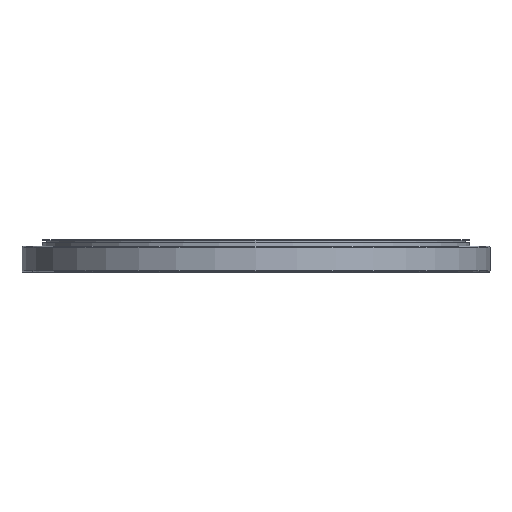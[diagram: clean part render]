
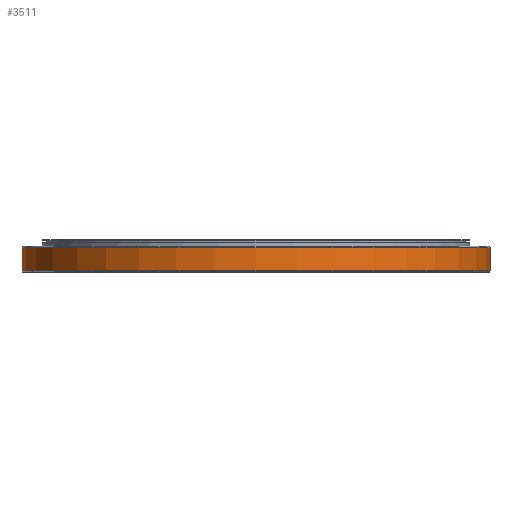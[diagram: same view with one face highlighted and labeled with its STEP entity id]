
A CAD part, top view. The second image highlights one B-rep face of the part: STEP entity #3511.
In plain terms, the highlighted cylindrical face has radius 407 mm (diameter 814 mm), a partial arc.
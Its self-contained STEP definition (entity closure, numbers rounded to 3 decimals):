
#1305=CARTESIAN_POINT('',(0.,42.5,0.));
#1306=DIRECTION('',(0.,-1.,0.));
#1307=DIRECTION('',(1.,0.,0.));
#1308=AXIS2_PLACEMENT_3D('',#1305,#1306,#1307);
#1310=CARTESIAN_POINT('',(0.,2.,0.));
#1311=DIRECTION('',(0.,-1.,0.));
#1312=DIRECTION('',(1.,0.,0.));
#1313=AXIS2_PLACEMENT_3D('',#1310,#1311,#1312);
#1330=DIRECTION('',(0.,-1.,0.));
#1331=VECTOR('',#1330,40.5);
#1332=CARTESIAN_POINT('',(-407.,42.5,0.));
#1333=LINE('',#1332,#1331);
#1339=DIRECTION('',(0.,-1.,0.));
#1340=VECTOR('',#1339,40.5);
#1341=CARTESIAN_POINT('',(407.,42.5,0.));
#1342=LINE('',#1341,#1340);
#1571=CARTESIAN_POINT('',(-407.,42.5,0.));
#1572=CARTESIAN_POINT('',(407.,42.5,0.));
#1573=VERTEX_POINT('',#1571);
#1574=VERTEX_POINT('',#1572);
#1583=CARTESIAN_POINT('',(-407.,2.,0.));
#1584=CARTESIAN_POINT('',(407.,2.,0.));
#1585=VERTEX_POINT('',#1583);
#1586=VERTEX_POINT('',#1584);
#3497=CARTESIAN_POINT('',(0.,0.,0.));
#3498=DIRECTION('',(0.,1.,0.));
#3499=DIRECTION('',(1.,0.,0.));
#3500=AXIS2_PLACEMENT_3D('',#3497,#3498,#3499);
#3501=CYLINDRICAL_SURFACE('',#3500,407.);
#3503=ORIENTED_EDGE('',*,*,#3502,.F.);
#3505=ORIENTED_EDGE('',*,*,#3504,.T.);
#3506=ORIENTED_EDGE('',*,*,#3491,.T.);
#3508=ORIENTED_EDGE('',*,*,#3507,.F.);
#3509=EDGE_LOOP('',(#3503,#3505,#3506,#3508));
#3510=FACE_OUTER_BOUND('',#3509,.F.);
#1309=CIRCLE('',#1308,407.);
#1314=CIRCLE('',#1313,407.);
#3491=EDGE_CURVE('',#1586,#1585,#1314,.T.);
#3502=EDGE_CURVE('',#1574,#1573,#1309,.T.);
#3504=EDGE_CURVE('',#1574,#1586,#1342,.T.);
#3507=EDGE_CURVE('',#1573,#1585,#1333,.T.);
#3511=ADVANCED_FACE('',(#3510),#3501,.T.);
